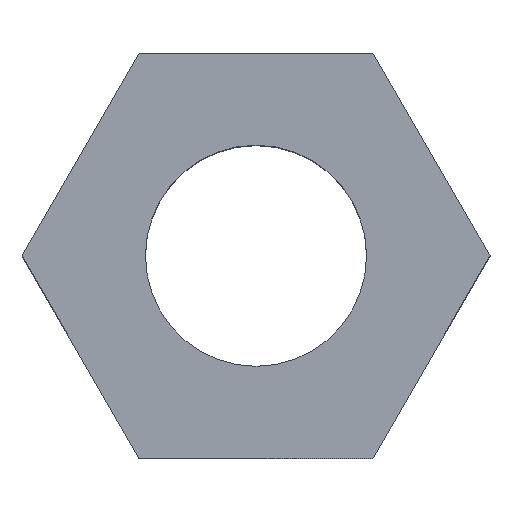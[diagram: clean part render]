
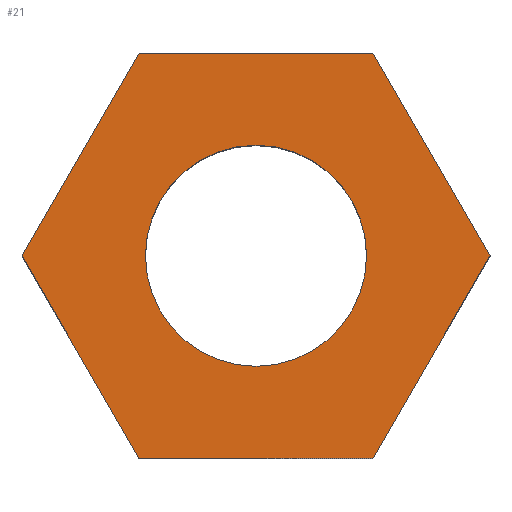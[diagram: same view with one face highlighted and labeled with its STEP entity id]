
A CAD part, top view. The second image highlights one B-rep face of the part: STEP entity #21.
In plain terms, the highlighted planar face has unit normal (0, 0, 1).
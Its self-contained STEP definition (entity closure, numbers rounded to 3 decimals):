
#2 = CARTESIAN_POINT ( 'NONE',  ( -1.588, -2.75, 4. ) ) ;
#5 = CARTESIAN_POINT ( 'NONE',  ( -1.588, -2.75, 4. ) ) ;
#7 = DIRECTION ( 'NONE',  ( -0.5, 0.866, 0. ) ) ;
#8 = DIRECTION ( 'NONE',  ( 0., 0., 1. ) ) ;
#15 = DIRECTION ( 'NONE',  ( 1., 0., 0. ) ) ;
#21 = ADVANCED_FACE ( 'NONE', ( #180, #359 ), #67, .T. ) ;
#27 = VECTOR ( 'NONE', #122, 1000. ) ;
#28 = ORIENTED_EDGE ( 'NONE', *, *, #371, .T. ) ;
#29 = CARTESIAN_POINT ( 'NONE',  ( 1.5, 0., 4. ) ) ;
#32 = VERTEX_POINT ( 'NONE', #299 ) ;
#37 = CARTESIAN_POINT ( 'NONE',  ( -1.588, 2.75, 4. ) ) ;
#53 = EDGE_LOOP ( 'NONE', ( #54, #315 ) ) ;
#54 = ORIENTED_EDGE ( 'NONE', *, *, #220, .F. ) ;
#59 = VECTOR ( 'NONE', #71, 1000. ) ;
#67 = PLANE ( 'NONE',  #72 ) ;
#68 = CARTESIAN_POINT ( 'NONE',  ( 1.588, -2.75, 4. ) ) ;
#69 = CARTESIAN_POINT ( 'NONE',  ( 1.588, 2.75, 4. ) ) ;
#71 = DIRECTION ( 'NONE',  ( -1., 0., 0. ) ) ;
#72 = AXIS2_PLACEMENT_3D ( 'NONE', #361, #185, #15 ) ;
#90 = VERTEX_POINT ( 'NONE', #326 ) ;
#93 = DIRECTION ( 'NONE',  ( 0., 0., 1. ) ) ;
#95 = CARTESIAN_POINT ( 'NONE',  ( 1.588, 2.75, 4. ) ) ;
#108 = AXIS2_PLACEMENT_3D ( 'NONE', #152, #93, #353 ) ;
#109 = EDGE_CURVE ( 'NONE', #226, #309, #216, .T. ) ;
#112 = VECTOR ( 'NONE', #7, 1000. ) ;
#122 = DIRECTION ( 'NONE',  ( 1., 0., 0. ) ) ;
#138 = EDGE_CURVE ( 'NONE', #261, #90, #258, .T. ) ;
#140 = CIRCLE ( 'NONE', #348, 1.5 ) ;
#152 = CARTESIAN_POINT ( 'NONE',  ( 0., 0., 4. ) ) ;
#157 = CARTESIAN_POINT ( 'NONE',  ( -1.588, 2.75, 4. ) ) ;
#159 = VECTOR ( 'NONE', #376, 1000. ) ;
#169 = EDGE_LOOP ( 'NONE', ( #28, #373, #303, #377, #249, #196 ) ) ;
#180 = FACE_OUTER_BOUND ( 'NONE', #169, .T. ) ;
#185 = DIRECTION ( 'NONE',  ( 0., 0., 1. ) ) ;
#186 = VECTOR ( 'NONE', #272, 1000. ) ;
#196 = ORIENTED_EDGE ( 'NONE', *, *, #257, .T. ) ;
#209 = CARTESIAN_POINT ( 'NONE',  ( 3.175, 0., 4. ) ) ;
#216 = LINE ( 'NONE', #95, #59 ) ;
#220 = EDGE_CURVE ( 'NONE', #90, #261, #140, .T. ) ;
#226 = VERTEX_POINT ( 'NONE', #69 ) ;
#230 = VERTEX_POINT ( 'NONE', #243 ) ;
#235 = LINE ( 'NONE', #5, #27 ) ;
#238 = LINE ( 'NONE', #350, #186 ) ;
#243 = CARTESIAN_POINT ( 'NONE',  ( 1.588, -2.75, 4. ) ) ;
#244 = EDGE_CURVE ( 'NONE', #309, #32, #277, .T. ) ;
#249 = ORIENTED_EDGE ( 'NONE', *, *, #284, .T. ) ;
#254 = VERTEX_POINT ( 'NONE', #2 ) ;
#257 = EDGE_CURVE ( 'NONE', #254, #230, #235, .T. ) ;
#258 = CIRCLE ( 'NONE', #108, 1.5 ) ;
#261 = VERTEX_POINT ( 'NONE', #29 ) ;
#268 = LINE ( 'NONE', #68, #159 ) ;
#270 = LINE ( 'NONE', #209, #112 ) ;
#272 = DIRECTION ( 'NONE',  ( 0.5, -0.866, 0. ) ) ;
#277 = LINE ( 'NONE', #157, #311 ) ;
#284 = EDGE_CURVE ( 'NONE', #32, #254, #238, .T. ) ;
#299 = CARTESIAN_POINT ( 'NONE',  ( -3.175, 0., 4. ) ) ;
#303 = ORIENTED_EDGE ( 'NONE', *, *, #109, .T. ) ;
#309 = VERTEX_POINT ( 'NONE', #37 ) ;
#311 = VECTOR ( 'NONE', #324, 1000. ) ;
#312 = VERTEX_POINT ( 'NONE', #360 ) ;
#315 = ORIENTED_EDGE ( 'NONE', *, *, #138, .F. ) ;
#324 = DIRECTION ( 'NONE',  ( -0.5, -0.866, 0. ) ) ;
#326 = CARTESIAN_POINT ( 'NONE',  ( -1.5, 0., 4. ) ) ;
#329 = DIRECTION ( 'NONE',  ( 1., 0., 0. ) ) ;
#348 = AXIS2_PLACEMENT_3D ( 'NONE', #356, #8, #329 ) ;
#350 = CARTESIAN_POINT ( 'NONE',  ( -3.175, 0., 4. ) ) ;
#353 = DIRECTION ( 'NONE',  ( 1., 0., 0. ) ) ;
#356 = CARTESIAN_POINT ( 'NONE',  ( 0., 0., 4. ) ) ;
#359 = FACE_BOUND ( 'NONE', #53, .T. ) ;
#360 = CARTESIAN_POINT ( 'NONE',  ( 3.175, 0., 4. ) ) ;
#361 = CARTESIAN_POINT ( 'NONE',  ( 0., 0., 4. ) ) ;
#367 = EDGE_CURVE ( 'NONE', #312, #226, #270, .T. ) ;
#371 = EDGE_CURVE ( 'NONE', #230, #312, #268, .T. ) ;
#373 = ORIENTED_EDGE ( 'NONE', *, *, #367, .T. ) ;
#376 = DIRECTION ( 'NONE',  ( 0.5, 0.866, 0. ) ) ;
#377 = ORIENTED_EDGE ( 'NONE', *, *, #244, .T. ) ;
